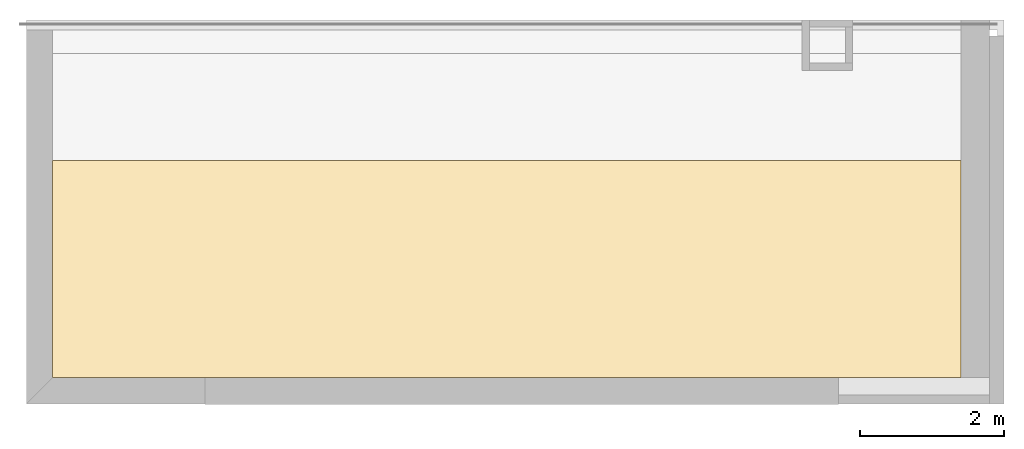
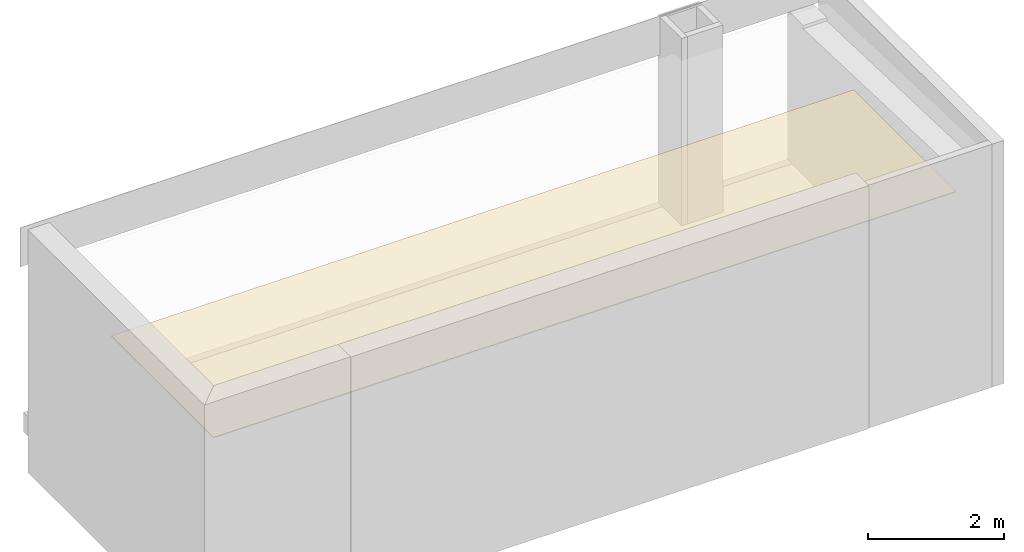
# One storey, part 3 of 3: 1 covering.
"""IFC2X3 building model written with IfcOpenShell, lengths in millimetres."""

from ifc_helpers import new_model, entity, si_unit, converted_unit, derived_unit, direction, frame, frame_2d, origin, origin_with_axes, place, context, subcontext, project, spatial, rectangle, extrude, material, layer, layer_set, layer_usage, type_object, element, save


model = new_model("IFC2X3")

# Units and contexts
model_context = context("Model", 3, precision=0.01, world=origin(), true_north=direction((6.12303176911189e-17, 1.0)))
plan_context = context("Plan", 3, precision=1e-05, world=origin_with_axes())
body_context = subcontext(model_context, "Body", "Model", "MODEL_VIEW")
ifc_project = project(units=[converted_unit("PLANEANGLEUNIT", "DEGREE", entity("IfcPositiveLengthMeasure", 0.0174532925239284), si_unit("PLANEANGLEUNIT", "RADIAN"), dimensions=[0, 0, 0, 0, 0, 0, 0]), si_unit("AREAUNIT", "SQUARE_METRE"), si_unit("LENGTHUNIT", "METRE", prefix="MILLI"), si_unit("MASSUNIT", "GRAM", prefix="KILO"), si_unit("POWERUNIT", "WATT"), si_unit("PRESSUREUNIT", "PASCAL"), si_unit("FORCEUNIT", "NEWTON", prefix="KILO"), si_unit("ELECTRICVOLTAGEUNIT", "VOLT"), si_unit("ELECTRICCURRENTUNIT", "AMPERE"), si_unit("THERMODYNAMICTEMPERATUREUNIT", "DEGREE_CELSIUS"), si_unit("TIMEUNIT", "SECOND"), si_unit("VOLUMEUNIT", "CUBIC_METRE"), derived_unit("LINEARVELOCITYUNIT", [(si_unit("LENGTHUNIT", "METRE"), 1), (si_unit("TIMEUNIT", "SECOND"), -1)]), derived_unit("VOLUMETRICFLOWRATEUNIT", [(si_unit("VOLUMEUNIT", "CUBIC_METRE"), 1), (si_unit("TIMEUNIT", "SECOND"), -1)]), derived_unit("THERMALTRANSMITTANCEUNIT", [(si_unit("POWERUNIT", "WATT"), 1), (si_unit("THERMODYNAMICTEMPERATUREUNIT", "KELVIN"), -1), (si_unit("AREAUNIT", "SQUARE_METRE"), -1)]), derived_unit("SOUNDPRESSUREUNIT", [(si_unit("PRESSUREUNIT", "PASCAL"), 1)])], contexts=[model_context, plan_context])

# Site, building, storey
site_placement = place(None, frame((2314154.5009392, 1029894.10887124, 0.0), z_axis=(0.0, 0.0, 1.0), x_axis=(1.0, 0.0, 0.0)))
site = spatial("IfcSite", under=ifc_project, at=site_placement, Name="Default", CompositionType="ELEMENT")
building_placement = place(site_placement, origin_with_axes())
building = spatial("IfcBuilding", under=site, at=building_placement, CompositionType="ELEMENT")
storey_placement = place(building_placement, frame((0.0, 0.0, 15370.0), z_axis=(0.0, 0.0, 1.0), x_axis=(1.0, 0.0, 0.0)))
storey = spatial("IfcBuildingStorey", under=building, at=storey_placement, Name="XX - C +15,37 TA E2", CompositionType="ELEMENT", Elevation=15370.0)

# Covering
ifc_material_1 = material(Name="Structure - Light Gauge Steel Joist Layer")
ifc_layer_1 = layer(ifc_material_1, 2.0)
ifc_material_2 = material(Name="_NSW Himlingsplate 600x600 mm")
ifc_layer_2 = layer(ifc_material_2, 13.0)
ifc_layer_set = layer_set([ifc_layer_1, ifc_layer_2], Name="Compound Ceiling:Værnes Himling H-SYS 01")
ifc_layer_usage = layer_usage(ifc_layer_set, "AXIS3", "NEGATIVE", 15.0)
covering_type = type_object("IfcCoveringType", Name="Compound Ceiling:Værnes Himling H-SYS 01", PredefinedType="CEILING")
covering_placement = place(storey_placement, origin_with_axes())
element("IfcCovering", 1, at=covering_placement, inside=storey, type_object=covering_type, material=ifc_layer_usage, Name="Compound Ceiling:Værnes Himling H-SYS 01", ObjectType="Compound Ceiling:Værnes Himling H-SYS 01", PredefinedType="CEILING", context=body_context, shape_type="SweptSolid", body=[
    extrude(rectangle(XDim=3010.97650722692, YDim=12601.4990381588, at=frame_2d((0.0, 1.36424205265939e-12), x_axis=(1.0, 0.0))), frame((5109.58442827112, -11918.8150264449, 2415.0), z_axis=(0.0, 0.0, 1.0), x_axis=(0.0, 1.0, 0.0)), (0.0, 0.0, 1.0), 15.0000000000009),
])

save(model, "model.ifc")
